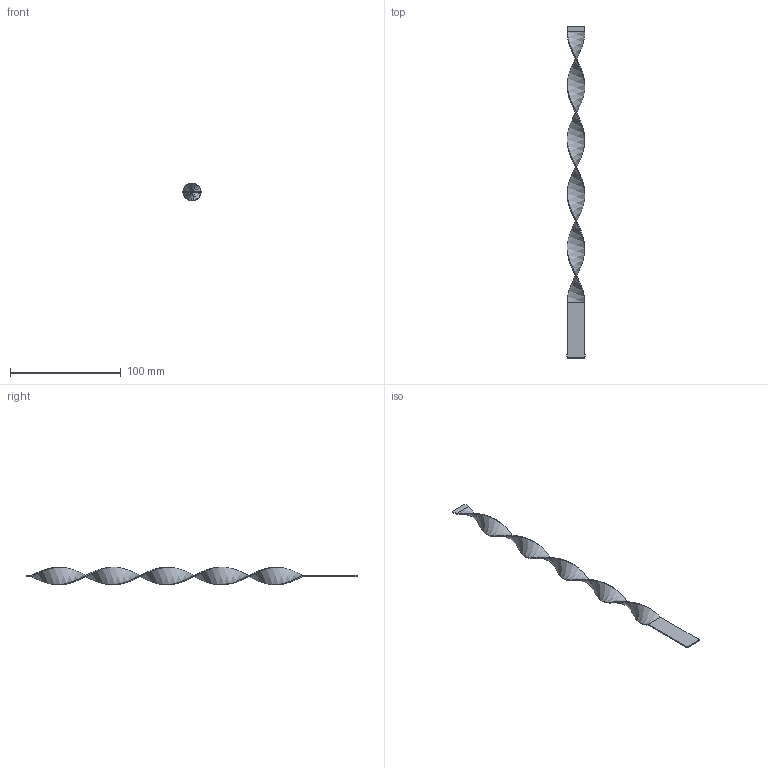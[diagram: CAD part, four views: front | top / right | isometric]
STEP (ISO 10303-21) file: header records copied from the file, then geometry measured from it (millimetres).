
FILE_DESCRIPTION (( 'STEP AP203' ), '1' );
FILE_NAME ('RLAS-16SMx300.STEP', '2015-12-10T14:17:28', ( 'Balzi' ), ( '' ), 'SwSTEP 2.0', 'SolidWorks 2015', '' );
FILE_SCHEMA (( 'CONFIG_CONTROL_DESIGN' ));
Length unit declared in the file: millimetre
Products named in the file (1): RLAS-16SMx300
Bounding box: 16.4 x 300 x 15.82 mm (x, y, z)
Volume: 4741.2 mm3; surface area: 10434.8 mm2
Topology: 1 solids, 1 shells, 22 faces, 52 edges, 32 vertices
Faces by surface type: plane 18, bspline 4
Entity records: 2709 total; most frequent: CARTESIAN_POINT 2163, ORIENTED_EDGE 104, DIRECTION 82, EDGE_CURVE 52, VECTOR 44, LINE 44, VERTEX_POINT 32, FACE_OUTER_BOUND 22
